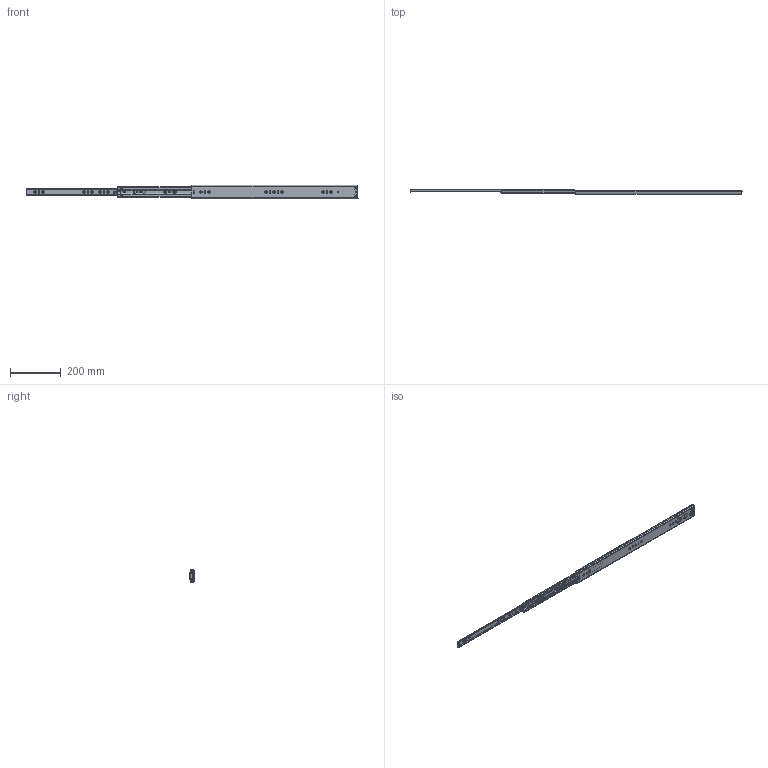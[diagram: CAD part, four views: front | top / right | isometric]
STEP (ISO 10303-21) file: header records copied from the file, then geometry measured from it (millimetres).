
FILE_DESCRIPTION((''),'2;1');
FILE_NAME('1053-HD-650_ASM','2023-11-18T',('jishu015'),(''),'PRO/ENGINEER BY PARAMETRIC TECHNOLOGY CORPORATION, 2010280','PRO/ENGINEER BY PARAMETRIC TECHNOLOGY CORPORATION, 2010280','');
FILE_SCHEMA(('CONFIG_CONTROL_DESIGN'));
Products named in the file (25): 1053-02-18WAIKE_____________; MANIFOLD_SOLID_BREP_51______; MANIFOLD_SOLID_BREP_52______; MANIFOLD_SOLID_BREP_53______; ADMI29141B9BC7PD_ASM_______ASM; ASM0001_______ASM; 53_ASM_______ASM; 1053-02-18XTPJG-DAZHUJIA11__; 1053-02-18XTPJG-5-6GANZHU11___; ZHONGGUIJIAO-11________; 1053-02-18XTPJG-DAZHUJIA-11____ASM; 1053-02-18WAIKE______________ASM; 1053-02-18ZHONGGUI_____________; 53ZHIDIJIAO_____________; 3X6-MAODING______; 1053-02-18ZHONGGUI______________ASM; 1053XIAOZHUJIA-14GE11; 53-5-6GANZHU_____________; 1053XIAOZHUJIA-14GE11_ASM; 1053-02-18NEIGUI_____________; 53BACHA____________; XIAOMAODING______; 3X4MAODING______; 1053-02-18NEIGUI______________ASM; 1053-HD-650_ASM
Assembly tree (103 placements, depth 6):
  1053-HD-650_ASM
    1053-02-18WAIKE______________ASM
      1053-02-18WAIKE_____________
      53_ASM_______ASM
        ASM0001_______ASM
          ADMI29141B9BC7PD_ASM_______ASM
            MANIFOLD_SOLID_BREP_51______
            MANIFOLD_SOLID_BREP_52______
            MANIFOLD_SOLID_BREP_53______
      1053-02-18XTPJG-DAZHUJIA-11____ASM
        1053-02-18XTPJG-DAZHUJIA11__
        1053-02-18XTPJG-5-6GANZHU11___  x36
        ZHONGGUIJIAO-11________  x2
    1053-02-18ZHONGGUI______________ASM
      1053-02-18ZHONGGUI_____________
      53ZHIDIJIAO_____________
      3X6-MAODING______
    1053XIAOZHUJIA-14GE11_ASM
      1053XIAOZHUJIA-14GE11
      53-5-6GANZHU_____________  x44
    1053-02-18NEIGUI______________ASM
      1053-02-18NEIGUI_____________
      53BACHA____________
      XIAOMAODING______
      3X4MAODING______
Bounding box: 1302.1 x 19.75 x 53 mm (x, y, z)
Volume: 248758.6 mm3; surface area: 307795.1 mm2
Topology: 95 solids, 95 shells, 3724 faces, 10377 edges, 6504 vertices
Faces by surface type: plane 1635, cylinder 1498, bspline 216, sphere 190, cone 123, torus 60, extrusion 2
Entity records: 133203 total; most frequent: CARTESIAN_POINT 43156, ORIENTED_EDGE 19316, DIRECTION 18043, EDGE_CURVE 9658, VERTEX_POINT 6222, AXIS2_PLACEMENT_3D 6137, VECTOR 5769, LINE 5767
